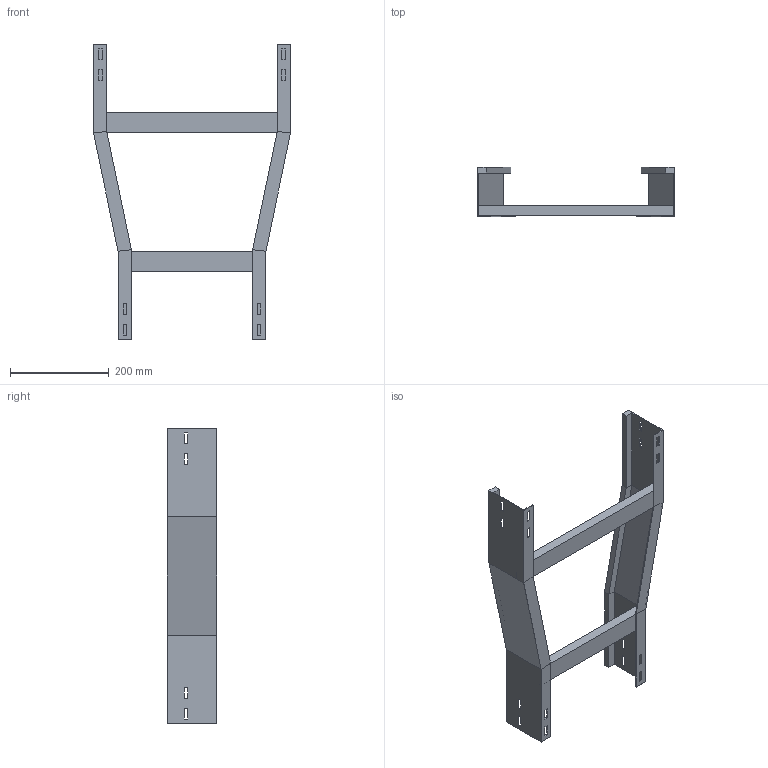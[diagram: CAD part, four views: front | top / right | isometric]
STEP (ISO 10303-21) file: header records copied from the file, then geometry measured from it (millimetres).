
FILE_DESCRIPTION (( 'STEP AP214' ), '1' );
FILE_NAME ('B2X20B3D400XX.step', '2025-09-02T17:14:14', ( '' ), ( '' ), 'SwSTEP 2.0', 'SolidWorks 2023', '' );
FILE_SCHEMA (( 'AUTOMOTIVE_DESIGN' ));
Length unit declared in the file: millimetre
Products named in the file (4): TRAVERSINO_400; TRAVERSINO_300; SPONDA RID. CENTRALE 400-300_H100; B2X20B3D400XX
Assembly tree (3 placements, depth 2):
  B2X20B3D400XX
    SPONDA RID. CENTRALE 400-300_H100
    TRAVERSINO_300
    TRAVERSINO_400
Bounding box: 400 x 100 x 600 mm (x, y, z)
Volume: 1090547.3 mm3; surface area: 431815.5 mm2
Topology: 4 solids, 4 shells, 128 faces, 328 edges, 208 vertices
Faces by surface type: plane 128
Entity records: 3950 total; most frequent: CARTESIAN_POINT 670, ORIENTED_EDGE 656, DIRECTION 596, LINE 328, VECTOR 328, EDGE_CURVE 328, VERTEX_POINT 208, EDGE_LOOP 160
